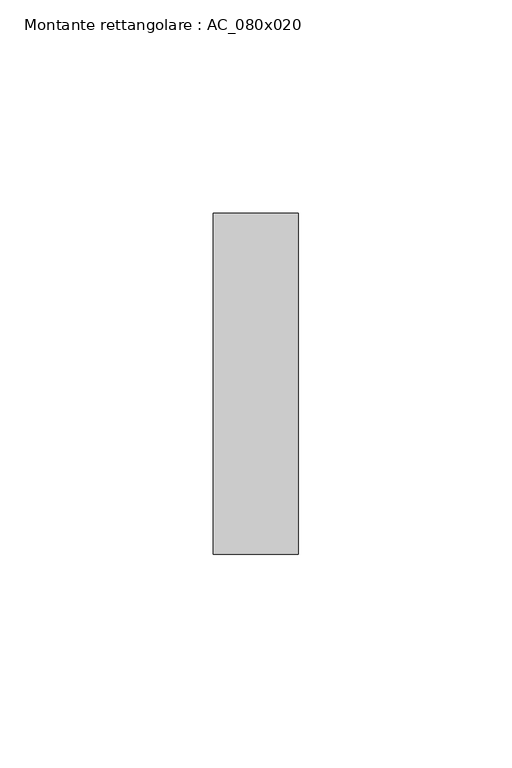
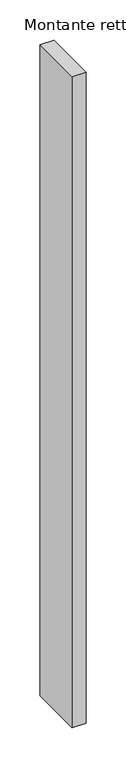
"""IFC4 building model written with IfcOpenShell, lengths in millimetres: member geometry, Montante rettangolare : AC_080x020."""

from ifc_helpers import new_model, si_unit, frame, origin, place, context, project, spatial, polyline, outline, extrude, source, transform, mapped, element, save


def montante_rettangolare_ac_080x020_cddab958(model_context):
    return source(origin(), model_context, "Body", "SweptSolid", [
        extrude(outline(polyline([(0.0, 40.0), (0.0, -40.0), (-20.0, -40.0), (-20.0, 40.0), (0.0, 40.0)])), frame((0.0, 0.0, -990.2030045), z_axis=(0.0, 0.0, 1.0), x_axis=(1.0, 0.0, 0.0)), (0.0, 0.0, 1.0), 990.2030045),
    ])


if __name__ == "__main__":
    model = new_model("IFC4")
    model_context = context("Model", 3, world=origin())
    ifc_project = project(units=[si_unit("LENGTHUNIT", "METRE", prefix="MILLI")], contexts=[model_context])
    site = spatial("IfcSite", under=ifc_project)
    building = spatial("IfcBuilding", under=site)
    placement = place(None, origin())
    montante_rettangolare_ac_080x020_shape = montante_rettangolare_ac_080x020_cddab958(model_context)
    element("IfcMember", 1, ObjectType="Montante rettangolare : AC_080x020", at=placement, inside=building, context=model_context, shape_type="MappedRepresentation", body=[
        mapped(montante_rettangolare_ac_080x020_shape, transform((0.0, 0.0, 0.0), x_axis=(1.0, 0.0, 0.0), y_axis=(0.0, 1.0, 0.0), z_axis=(0.0, 0.0, 1.0))),
    ])
    save(model, "model.ifc")
